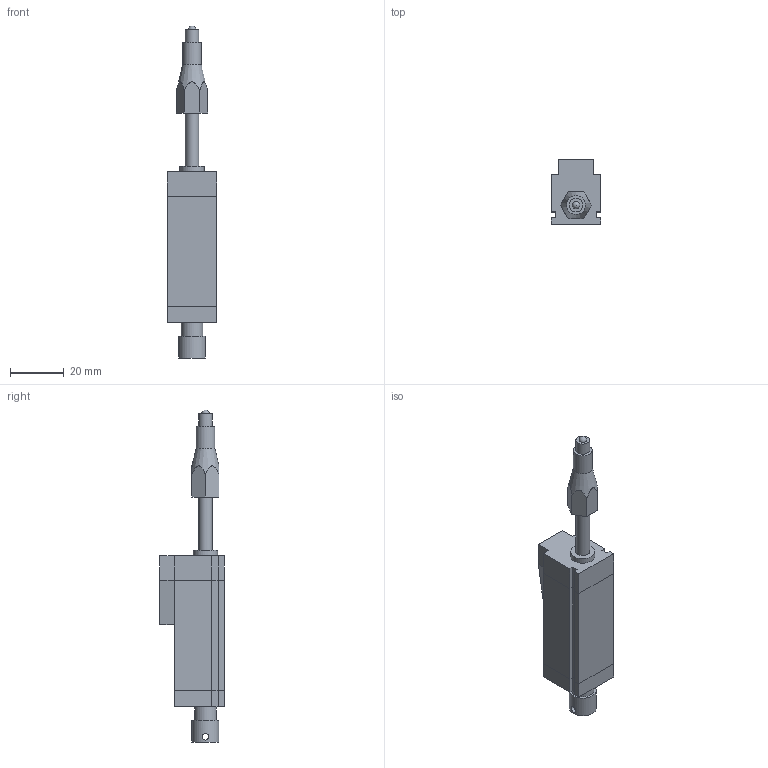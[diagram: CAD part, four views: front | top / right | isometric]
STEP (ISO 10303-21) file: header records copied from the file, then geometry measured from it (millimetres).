
FILE_DESCRIPTION(/* description */ ('','CAx-IF Rec.Pracs.---Representation and Presentation of Product Manufacturing Information (PMI)---3.8---2014-02-18'),/* implementation_level */ '2;1');
FILE_NAME(/* name */ 'C:\Users\JN\Documents\CAD Drawings\The Sensor Connection\3D\LPPS\LPPS-SL-10.stp',/* time_stamp */ '2017-01-05T13:06:16-05:00',/* author */ ('JN'),/* organization */ (''),/* preprocessor_version */ 'ST-DEVELOPER v16.5',/* originating_system */ 'Autodesk Inventor LT',/* authorisation */ '');
FILE_SCHEMA (('AP242_MANAGED_MODEL_BASED_3D_ENGINEERING_MIM_LF { 1 0 10303 442 1 1 4 }'));
Length unit declared in the file: inch
Products named in the file (1): LPPS-SL-10
Bounding box: 18.29 x 23.88 x 123 mm (x, y, z)
Volume: 23021.6 mm3; surface area: 9267.5 mm2
Topology: 5 solids, 5 shells, 78 faces, 189 edges, 125 vertices
Faces by surface type: plane 67, cylinder 9, cone 1, sphere 1
Full cylindrical faces by diameter (mm): 2.388 x2, 5.08 x2, 6.96 x1, 7.206 x1, 8.103 x1, 9.042 x1, 10 x1
Entity records: 2323 total; most frequent: CARTESIAN_POINT 510, ORIENTED_EDGE 336, DIRECTION 331, EDGE_CURVE 168, LINE 141, VECTOR 141, VERTEX_POINT 117, EDGE_LOOP 99
